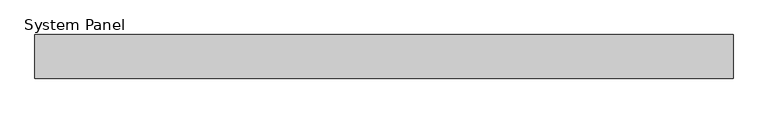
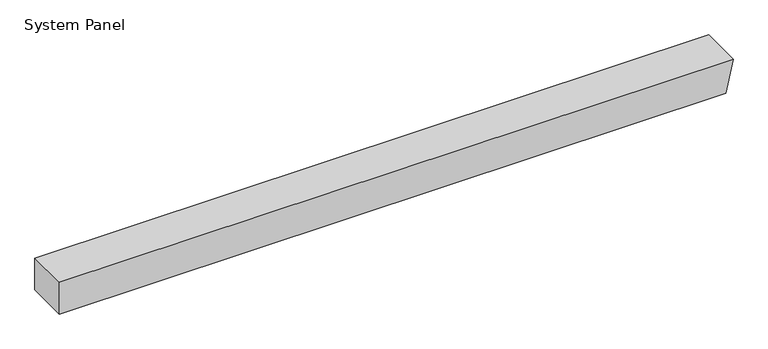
"""IFC4 building model written with IfcOpenShell, lengths in millimetres: plate geometry, System Panel : Equitilt 100mm Horizontal - Plain RHEA - MW."""

from ifc_helpers import new_model, si_unit, frame, origin, place, context, project, spatial, polyline, outline, extrude, source, transform, mapped, element, save


def system_panel_0650ad8c(model_context):
    return source(origin(), model_context, "Body", "SweptSolid", [
        extrude(outline(polyline([(0.0, -800.0), (0.0, 782.6149856), (79.9704237, 800.0), (79.9704237, -800.0), (0.0, -800.0)])), frame((0.0, -100.0, 0.0), z_axis=(0.0, 1.0, 0.0), x_axis=(0.0, 0.0, 1.0)), (0.0, 0.0, 1.0), 100.0),
    ])


if __name__ == "__main__":
    model = new_model("IFC4")
    model_context = context("Model", 3, world=origin())
    ifc_project = project(units=[si_unit("LENGTHUNIT", "METRE", prefix="MILLI")], contexts=[model_context])
    site = spatial("IfcSite", under=ifc_project)
    building = spatial("IfcBuilding", under=site)
    placement = place(None, origin())
    system_panel_shape = system_panel_0650ad8c(model_context)
    element("IfcPlate", 1, ObjectType="System Panel : Equitilt 100mm Horizontal - Plain RHEA - MW", at=placement, inside=building, context=model_context, shape_type="MappedRepresentation", body=[
        mapped(system_panel_shape, transform((0.0, 0.0, 0.0), x_axis=(1.0, 0.0, 0.0), y_axis=(0.0, 1.0, 0.0), z_axis=(0.0, 0.0, 1.0))),
    ])
    save(model, "model.ifc")
